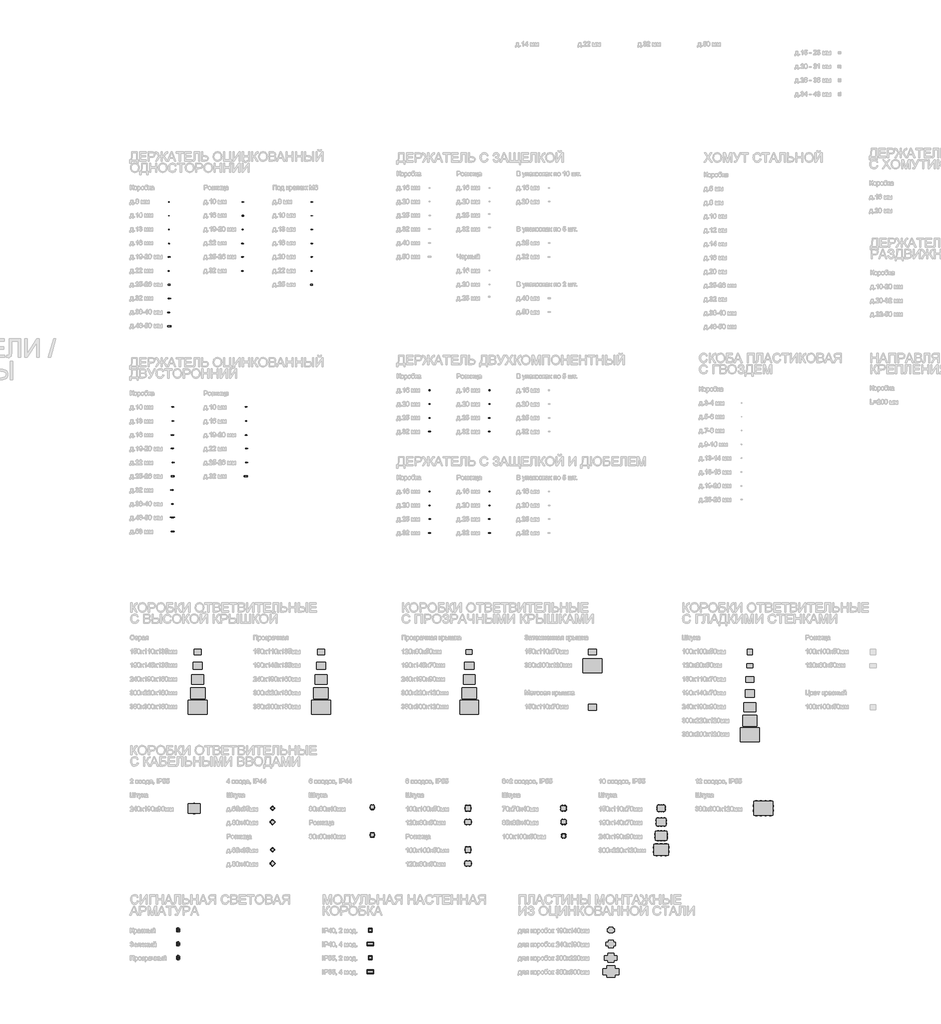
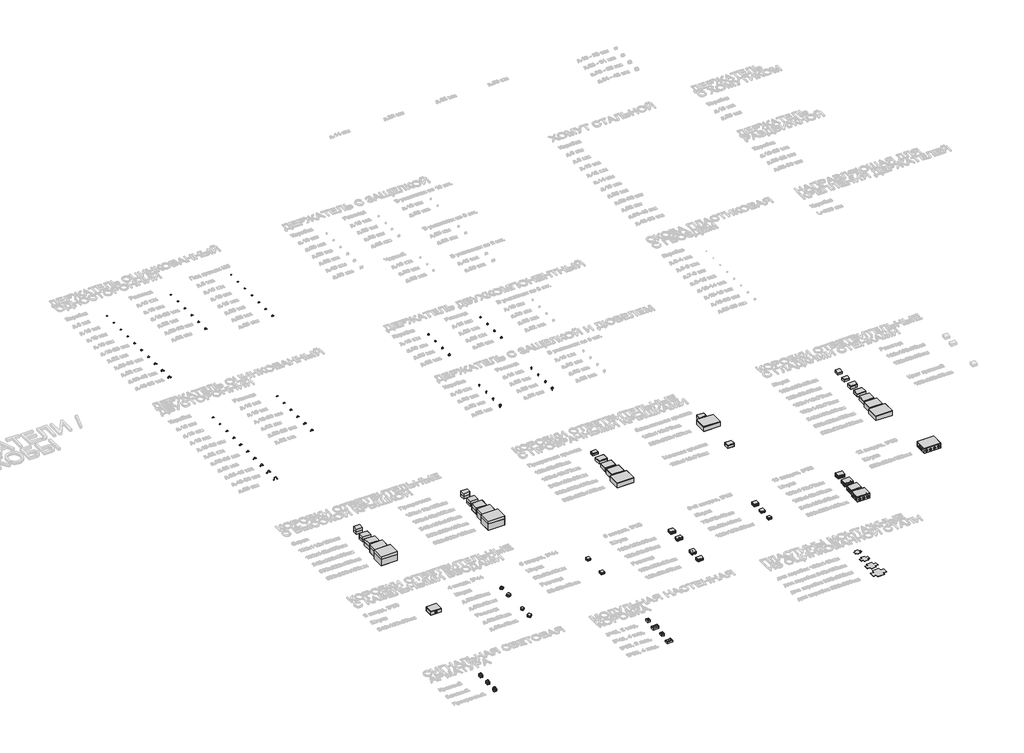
# One storey, part 1 of 98: 133 cable carrier fittings.
"""IFC4 building model written with IfcOpenShell, lengths in millimetres."""

from ifc_helpers import new_model, si_unit, origin, place, context, project, spatial, transform, mapped, element, save
from components import cable_carrier_fitting_fb84c19f, cable_carrier_fitting_7ec1cf44, cable_carrier_fitting_ea1286eb, cable_carrier_fitting_c44e37c7, cable_carrier_fitting_219328c9, cable_carrier_fitting_02279886, cable_carrier_fitting_015eeb92, cable_carrier_fitting_90186b1b, cable_carrier_fitting_2cc71f8e, cable_carrier_fitting_7289a710, cable_carrier_fitting_dbcab5cf, cable_carrier_fitting_85cb3a9a, cable_carrier_fitting_709250df, cable_carrier_fitting_ede0cdf9, cable_carrier_fitting_0c90fa16, cable_carrier_fitting_0106e0a8, cable_carrier_fitting_af9cb672, cable_carrier_fitting_868b71e6, cable_carrier_fitting_31fdd750, cable_carrier_fitting_eac3f454, cable_carrier_fitting_328e0a5f, cable_carrier_fitting_8bd09c2a, cable_carrier_fitting_1310a5ac, cable_carrier_fitting_f97c49a7, cable_carrier_fitting_1d412742, cable_carrier_fitting_4c093579, cable_carrier_fitting_d7937d52, cable_carrier_fitting_667f8432, cable_carrier_fitting_e7482c49, cable_carrier_fitting_fc76e14e, cable_carrier_fitting_ba0b64d6, cable_carrier_fitting_5ef4d5b9, cable_carrier_fitting_fce8d063, cable_carrier_fitting_f05b5040, cable_carrier_fitting_80cae445, cable_carrier_fitting_1495f8f4, cable_carrier_fitting_d68eb885, cable_carrier_fitting_ef6b51e8, cable_carrier_fitting_43ae8ca0, cable_carrier_fitting_7f8c6c91, cable_carrier_fitting_3680dad2, cable_carrier_fitting_05f6cc3a, cable_carrier_fitting_6735ebb1, cable_carrier_fitting_eed6df0a, cable_carrier_fitting_0eef3111, cable_carrier_fitting_70828152, cable_carrier_fitting_9cea8719, cable_carrier_fitting_77eaddde, cable_carrier_fitting_881643a7, cable_carrier_fitting_1314e60a, cable_carrier_fitting_8490ce1b, cable_carrier_fitting_2ab13ce0, cable_carrier_fitting_b24fd5af, cable_carrier_fitting_c96d8867, cable_carrier_fitting_ba293f6f, cable_carrier_fitting_9309c744, cable_carrier_fitting_1dd96824, cable_carrier_fitting_e5c09203, cable_carrier_fitting_5c50895f, cable_carrier_fitting_28132b05, cable_carrier_fitting_83356fa3, cable_carrier_fitting_1656734a, cable_carrier_fitting_9a70af75, cable_carrier_fitting_17f0b756, cable_carrier_fitting_1a81308a, cable_carrier_fitting_7af15bab, cable_carrier_fitting_7de9eb7b, cable_carrier_fitting_b689ec4e, cable_carrier_fitting_e0d42a9d, cable_carrier_fitting_1b3624fc, cable_carrier_fitting_2500d918

model = new_model("IFC4")

# Units and contexts
model_context = context("Model", 3, world=origin())
ifc_project = project(units=[si_unit("LENGTHUNIT", "METRE", prefix="MILLI")], contexts=[model_context])

# Site, building, storey
site = spatial("IfcSite", under=ifc_project)
building = spatial("IfcBuilding", under=site)
storey = spatial("IfcBuildingStorey", under=building, Name="Этаж 01", Elevation=0.0)

# Cable carrier fittings
placement = place(None, origin())
cable_carrier_fitting_shape = cable_carrier_fitting_fb84c19f(model_context)
element("IfcCableCarrierFitting", 1, ObjectType="КНС_ДержательОцинкованныйДвусторонний_DKC : д.10мм", at=placement, inside=storey, context=model_context, shape_type="MappedRepresentation", body=[
    mapped(cable_carrier_fitting_shape, transform((878.7004262, -36984.7060285, 0.0), x_axis=(1.0, 0.0, 0.0), y_axis=(0.0, 1.0, 0.0), z_axis=(0.0, 0.0, 1.0))),
])
cable_carrier_fitting_2_shape = cable_carrier_fitting_7ec1cf44(model_context)
element("IfcCableCarrierFitting", 2, ObjectType="КНС_ДержательОцинкованныйДвусторонний_DKC : д.32мм (розница)", at=placement, inside=storey, context=model_context, shape_type="MappedRepresentation", body=[
    mapped(cable_carrier_fitting_2_shape, transform((2478.7004262, -38484.7060285, 0.0), x_axis=(1.0, 0.0, 0.0), y_axis=(0.0, 1.0, 0.0), z_axis=(0.0, 0.0, 1.0))),
])
cable_carrier_fitting_3_shape = cable_carrier_fitting_ea1286eb(model_context)
element("IfcCableCarrierFitting", 3, ObjectType="КНС_ДержательОцинкованныйДвусторонний_DKC : д.25 - 26мм (розница)", at=placement, inside=storey, context=model_context, shape_type="MappedRepresentation", body=[
    mapped(cable_carrier_fitting_3_shape, transform((2478.7004262, -38184.7060285, 0.0), x_axis=(1.0, 0.0, 0.0), y_axis=(0.0, 1.0, 0.0), z_axis=(0.0, 0.0, 1.0))),
])
cable_carrier_fitting_4_shape = cable_carrier_fitting_c44e37c7(model_context)
element("IfcCableCarrierFitting", 4, ObjectType="КНС_ДержательОцинкованныйДвусторонний_DKC : д.22мм (розница)", at=placement, inside=storey, context=model_context, shape_type="MappedRepresentation", body=[
    mapped(cable_carrier_fitting_4_shape, transform((2478.7004262, -37884.7060285, 0.0), x_axis=(1.0, 0.0, 0.0), y_axis=(0.0, 1.0, 0.0), z_axis=(0.0, 0.0, 1.0))),
])
cable_carrier_fitting_5_shape = cable_carrier_fitting_219328c9(model_context)
element("IfcCableCarrierFitting", 5, ObjectType="КНС_ДержательОцинкованныйДвусторонний_DKC : д.19 - 20мм (розница)", at=placement, inside=storey, context=model_context, shape_type="MappedRepresentation", body=[
    mapped(cable_carrier_fitting_5_shape, transform((2478.7004262, -37584.7060285, 0.0), x_axis=(1.0, 0.0, 0.0), y_axis=(0.0, 1.0, 0.0), z_axis=(0.0, 0.0, 1.0))),
])
cable_carrier_fitting_6_shape = cable_carrier_fitting_02279886(model_context)
element("IfcCableCarrierFitting", 6, ObjectType="КНС_ДержательОцинкованныйДвусторонний_DKC : д.16мм (розница)", at=placement, inside=storey, context=model_context, shape_type="MappedRepresentation", body=[
    mapped(cable_carrier_fitting_6_shape, transform((2478.7004262, -37284.7060285, 0.0), x_axis=(1.0, 0.0, 0.0), y_axis=(0.0, 1.0, 0.0), z_axis=(0.0, 0.0, 1.0))),
])
element("IfcCableCarrierFitting", 7, ObjectType="КНС_ДержательОцинкованныйДвусторонний_DKC : д.10мм (розница)", at=placement, inside=storey, context=model_context, shape_type="MappedRepresentation", body=[
    mapped(cable_carrier_fitting_shape, transform((2478.7004262, -36984.7060285, 0.0), x_axis=(1.0, 0.0, 0.0), y_axis=(0.0, 1.0, 0.0), z_axis=(0.0, 0.0, 1.0))),
])
cable_carrier_fitting_7_shape = cable_carrier_fitting_015eeb92(model_context)
element("IfcCableCarrierFitting", 8, ObjectType="КНС_ДержательОцинкованныйДвусторонний_DKC : д.63мм", at=placement, inside=storey, context=model_context, shape_type="MappedRepresentation", body=[
    mapped(cable_carrier_fitting_7_shape, transform((878.7004262, -39684.7060285, 0.0), x_axis=(1.0, 0.0, 0.0), y_axis=(0.0, 1.0, 0.0), z_axis=(0.0, 0.0, 1.0))),
])
cable_carrier_fitting_8_shape = cable_carrier_fitting_90186b1b(model_context)
element("IfcCableCarrierFitting", 9, ObjectType="КНС_ДержательОцинкованныйДвусторонний_DKC : д.48 - 50мм", at=placement, inside=storey, context=model_context, shape_type="MappedRepresentation", body=[
    mapped(cable_carrier_fitting_8_shape, transform((878.7004262, -39384.7060285, 0.0), x_axis=(1.0, 0.0, 0.0), y_axis=(0.0, 1.0, 0.0), z_axis=(0.0, 0.0, 1.0))),
])
cable_carrier_fitting_9_shape = cable_carrier_fitting_2cc71f8e(model_context)
element("IfcCableCarrierFitting", 10, ObjectType="КНС_ДержательОцинкованныйДвусторонний_DKC : д.38 - 40мм", at=placement, inside=storey, context=model_context, shape_type="MappedRepresentation", body=[
    mapped(cable_carrier_fitting_9_shape, transform((878.7004262, -39084.7060285, 0.0), x_axis=(1.0, 0.0, 0.0), y_axis=(0.0, 1.0, 0.0), z_axis=(0.0, 0.0, 1.0))),
])
element("IfcCableCarrierFitting", 11, ObjectType="КНС_ДержательОцинкованныйДвусторонний_DKC : д.32мм", at=placement, inside=storey, context=model_context, shape_type="MappedRepresentation", body=[
    mapped(cable_carrier_fitting_2_shape, transform((878.7004262, -38784.7060285, 0.0), x_axis=(1.0, 0.0, 0.0), y_axis=(0.0, 1.0, 0.0), z_axis=(0.0, 0.0, 1.0))),
])
element("IfcCableCarrierFitting", 12, ObjectType="КНС_ДержательОцинкованныйДвусторонний_DKC : д.25 - 26 мм", at=placement, inside=storey, context=model_context, shape_type="MappedRepresentation", body=[
    mapped(cable_carrier_fitting_3_shape, transform((878.7004262, -38484.7060285, 0.0), x_axis=(1.0, 0.0, 0.0), y_axis=(0.0, 1.0, 0.0), z_axis=(0.0, 0.0, 1.0))),
])
element("IfcCableCarrierFitting", 13, ObjectType="КНС_ДержательОцинкованныйДвусторонний_DKC : д.22мм", at=placement, inside=storey, context=model_context, shape_type="MappedRepresentation", body=[
    mapped(cable_carrier_fitting_4_shape, transform((878.7004262, -38184.7060285, 0.0), x_axis=(1.0, 0.0, 0.0), y_axis=(0.0, 1.0, 0.0), z_axis=(0.0, 0.0, 1.0))),
])
element("IfcCableCarrierFitting", 14, ObjectType="КНС_ДержательОцинкованныйДвусторонний_DKC : д.19 - 20мм", at=placement, inside=storey, context=model_context, shape_type="MappedRepresentation", body=[
    mapped(cable_carrier_fitting_5_shape, transform((878.7004262, -37884.7060285, 0.0), x_axis=(1.0, 0.0, 0.0), y_axis=(0.0, 1.0, 0.0), z_axis=(0.0, 0.0, 1.0))),
])
element("IfcCableCarrierFitting", 15, ObjectType="КНС_ДержательОцинкованныйДвусторонний_DKC : д.16мм", at=placement, inside=storey, context=model_context, shape_type="MappedRepresentation", body=[
    mapped(cable_carrier_fitting_6_shape, transform((878.7004262, -37584.7060285, 0.0), x_axis=(1.0, 0.0, 0.0), y_axis=(0.0, 1.0, 0.0), z_axis=(0.0, 0.0, 1.0))),
])
cable_carrier_fitting_10_shape = cable_carrier_fitting_7289a710(model_context)
element("IfcCableCarrierFitting", 16, ObjectType="КНС_ДержательОцинкованныйДвусторонний_DKC : д.13мм", at=placement, inside=storey, context=model_context, shape_type="MappedRepresentation", body=[
    mapped(cable_carrier_fitting_10_shape, transform((878.7004262, -37284.7060285, 0.0), x_axis=(1.0, 0.0, 0.0), y_axis=(0.0, 1.0, 0.0), z_axis=(0.0, 0.0, 1.0))),
])
cable_carrier_fitting_11_shape = cable_carrier_fitting_dbcab5cf(model_context)
element("IfcCableCarrierFitting", 17, ObjectType="КНС_ДержательОцинкованныйОдносторонний_DKC : д.10мм", at=placement, inside=storey, context=model_context, shape_type="MappedRepresentation", body=[
    mapped(cable_carrier_fitting_11_shape, transform((799.2967341, -32823.8056912, 0.0), x_axis=(1.0, 0.0, 0.0), y_axis=(0.0, 1.0, 0.0), z_axis=(0.0, 0.0, 1.0))),
])
cable_carrier_fitting_12_shape = cable_carrier_fitting_85cb3a9a(model_context)
element("IfcCableCarrierFitting", 18, ObjectType="КНС_ДержательОцинкованныйОдносторонний_DKC : д.25мм под крепеж М6", at=placement, inside=storey, context=model_context, shape_type="MappedRepresentation", body=[
    mapped(cable_carrier_fitting_12_shape, transform((3899.2967341, -34323.8056912, 0.0), x_axis=(1.0, 0.0, 0.0), y_axis=(0.0, 1.0, 0.0), z_axis=(0.0, 0.0, 1.0))),
])
cable_carrier_fitting_13_shape = cable_carrier_fitting_709250df(model_context)
element("IfcCableCarrierFitting", 19, ObjectType="КНС_ДержательОцинкованныйОдносторонний_DKC : д.22мм под крепеж М6", at=placement, inside=storey, context=model_context, shape_type="MappedRepresentation", body=[
    mapped(cable_carrier_fitting_13_shape, transform((3899.2967341, -34023.8056912, 0.0), x_axis=(1.0, 0.0, 0.0), y_axis=(0.0, 1.0, 0.0), z_axis=(0.0, 0.0, 1.0))),
])
cable_carrier_fitting_14_shape = cable_carrier_fitting_ede0cdf9(model_context)
element("IfcCableCarrierFitting", 20, ObjectType="КНС_ДержательОцинкованныйОдносторонний_DKC : д.20мм под крепеж М6", at=placement, inside=storey, context=model_context, shape_type="MappedRepresentation", body=[
    mapped(cable_carrier_fitting_14_shape, transform((3899.2967341, -33723.8056912, 0.0), x_axis=(1.0, 0.0, 0.0), y_axis=(0.0, 1.0, 0.0), z_axis=(0.0, 0.0, 1.0))),
])
cable_carrier_fitting_15_shape = cable_carrier_fitting_0c90fa16(model_context)
element("IfcCableCarrierFitting", 21, ObjectType="КНС_ДержательОцинкованныйОдносторонний_DKC : д.16мм под крепеж М6", at=placement, inside=storey, context=model_context, shape_type="MappedRepresentation", body=[
    mapped(cable_carrier_fitting_15_shape, transform((3899.2967341, -33423.8056912, 0.0), x_axis=(1.0, 0.0, 0.0), y_axis=(0.0, 1.0, 0.0), z_axis=(0.0, 0.0, 1.0))),
])
cable_carrier_fitting_16_shape = cable_carrier_fitting_0106e0a8(model_context)
element("IfcCableCarrierFitting", 22, ObjectType="КНС_ДержательОцинкованныйОдносторонний_DKC : д.13мм под крепеж М6", at=placement, inside=storey, context=model_context, shape_type="MappedRepresentation", body=[
    mapped(cable_carrier_fitting_16_shape, transform((3899.2967341, -33123.8056912, 0.0), x_axis=(1.0, 0.0, 0.0), y_axis=(0.0, 1.0, 0.0), z_axis=(0.0, 0.0, 1.0))),
])
element("IfcCableCarrierFitting", 23, ObjectType="КНС_ДержательОцинкованныйОдносторонний_DKC : д.10мм под крепеж М6", at=placement, inside=storey, context=model_context, shape_type="MappedRepresentation", body=[
    mapped(cable_carrier_fitting_11_shape, transform((3899.2967341, -32823.8056912, 0.0), x_axis=(1.0, 0.0, 0.0), y_axis=(0.0, 1.0, 0.0), z_axis=(0.0, 0.0, 1.0))),
])
cable_carrier_fitting_17_shape = cable_carrier_fitting_af9cb672(model_context)
element("IfcCableCarrierFitting", 24, ObjectType="КНС_ДержательОцинкованныйОдносторонний_DKC : д.8мм под крепеж М6", at=placement, inside=storey, context=model_context, shape_type="MappedRepresentation", body=[
    mapped(cable_carrier_fitting_17_shape, transform((3899.2967341, -32523.8056912, 0.0), x_axis=(1.0, 0.0, 0.0), y_axis=(0.0, 1.0, 0.0), z_axis=(0.0, 0.0, 1.0))),
])
cable_carrier_fitting_18_shape = cable_carrier_fitting_868b71e6(model_context)
element("IfcCableCarrierFitting", 25, ObjectType="КНС_ДержательОцинкованныйОдносторонний_DKC : д.32мм (розница)", at=placement, inside=storey, context=model_context, shape_type="MappedRepresentation", body=[
    mapped(cable_carrier_fitting_18_shape, transform((2399.2967341, -34023.8056912, 0.0), x_axis=(1.0, 0.0, 0.0), y_axis=(0.0, 1.0, 0.0), z_axis=(0.0, 0.0, 1.0))),
])
element("IfcCableCarrierFitting", 26, ObjectType="КНС_ДержательОцинкованныйОдносторонний_DKC : д.25 - 26мм (розница)", at=placement, inside=storey, context=model_context, shape_type="MappedRepresentation", body=[
    mapped(cable_carrier_fitting_12_shape, transform((2399.2967341, -33723.8056912, 0.0), x_axis=(1.0, 0.0, 0.0), y_axis=(0.0, 1.0, 0.0), z_axis=(0.0, 0.0, 1.0))),
])
element("IfcCableCarrierFitting", 27, ObjectType="КНС_ДержательОцинкованныйОдносторонний_DKC : д.22мм (розница)", at=placement, inside=storey, context=model_context, shape_type="MappedRepresentation", body=[
    mapped(cable_carrier_fitting_13_shape, transform((2399.2967341, -33423.8056912, 0.0), x_axis=(1.0, 0.0, 0.0), y_axis=(0.0, 1.0, 0.0), z_axis=(0.0, 0.0, 1.0))),
])
element("IfcCableCarrierFitting", 28, ObjectType="КНС_ДержательОцинкованныйОдносторонний_DKC : д.19 - 20мм (розница)", at=placement, inside=storey, context=model_context, shape_type="MappedRepresentation", body=[
    mapped(cable_carrier_fitting_14_shape, transform((2399.2967341, -33123.8056912, 0.0), x_axis=(1.0, 0.0, 0.0), y_axis=(0.0, 1.0, 0.0), z_axis=(0.0, 0.0, 1.0))),
])
element("IfcCableCarrierFitting", 29, ObjectType="КНС_ДержательОцинкованныйОдносторонний_DKC : д.16мм (розница)", at=placement, inside=storey, context=model_context, shape_type="MappedRepresentation", body=[
    mapped(cable_carrier_fitting_15_shape, transform((2399.2967341, -32823.8056912, 0.0), x_axis=(1.0, 0.0, 0.0), y_axis=(0.0, 1.0, 0.0), z_axis=(0.0, 0.0, 1.0))),
])
element("IfcCableCarrierFitting", 30, ObjectType="КНС_ДержательОцинкованныйОдносторонний_DKC : д.10мм (розница)", at=placement, inside=storey, context=model_context, shape_type="MappedRepresentation", body=[
    mapped(cable_carrier_fitting_11_shape, transform((2399.2967341, -32523.8056912, 0.0), x_axis=(1.0, 0.0, 0.0), y_axis=(0.0, 1.0, 0.0), z_axis=(0.0, 0.0, 1.0))),
])
cable_carrier_fitting_19_shape = cable_carrier_fitting_31fdd750(model_context)
element("IfcCableCarrierFitting", 31, ObjectType="КНС_ДержательОцинкованныйОдносторонний_DKC : д.48 - 50мм", at=placement, inside=storey, context=model_context, shape_type="MappedRepresentation", body=[
    mapped(cable_carrier_fitting_19_shape, transform((799.2967341, -35223.8056912, 0.0), x_axis=(1.0, 0.0, 0.0), y_axis=(0.0, 1.0, 0.0), z_axis=(0.0, 0.0, 1.0))),
])
cable_carrier_fitting_20_shape = cable_carrier_fitting_eac3f454(model_context)
element("IfcCableCarrierFitting", 32, ObjectType="КНС_ДержательОцинкованныйОдносторонний_DKC : д.38 - 40мм", at=placement, inside=storey, context=model_context, shape_type="MappedRepresentation", body=[
    mapped(cable_carrier_fitting_20_shape, transform((799.2967341, -34923.8056912, 0.0), x_axis=(1.0, 0.0, 0.0), y_axis=(0.0, 1.0, 0.0), z_axis=(0.0, 0.0, 1.0))),
])
element("IfcCableCarrierFitting", 33, ObjectType="КНС_ДержательОцинкованныйОдносторонний_DKC : д.32мм", at=placement, inside=storey, context=model_context, shape_type="MappedRepresentation", body=[
    mapped(cable_carrier_fitting_18_shape, transform((799.2967341, -34623.8056912, 0.0), x_axis=(1.0, 0.0, 0.0), y_axis=(0.0, 1.0, 0.0), z_axis=(0.0, 0.0, 1.0))),
])
element("IfcCableCarrierFitting", 34, ObjectType="КНС_ДержательОцинкованныйОдносторонний_DKC : д.25 - 26мм", at=placement, inside=storey, context=model_context, shape_type="MappedRepresentation", body=[
    mapped(cable_carrier_fitting_12_shape, transform((799.2967341, -34323.8056912, 0.0), x_axis=(1.0, 0.0, 0.0), y_axis=(0.0, 1.0, 0.0), z_axis=(0.0, 0.0, 1.0))),
])
element("IfcCableCarrierFitting", 35, ObjectType="КНС_ДержательОцинкованныйОдносторонний_DKC : д.22мм", at=placement, inside=storey, context=model_context, shape_type="MappedRepresentation", body=[
    mapped(cable_carrier_fitting_13_shape, transform((799.2967341, -34023.8056912, 0.0), x_axis=(1.0, 0.0, 0.0), y_axis=(0.0, 1.0, 0.0), z_axis=(0.0, 0.0, 1.0))),
])
element("IfcCableCarrierFitting", 36, ObjectType="КНС_ДержательОцинкованныйОдносторонний_DKC : д.19 - 20мм", at=placement, inside=storey, context=model_context, shape_type="MappedRepresentation", body=[
    mapped(cable_carrier_fitting_14_shape, transform((799.2967341, -33723.8056912, 0.0), x_axis=(1.0, 0.0, 0.0), y_axis=(0.0, 1.0, 0.0), z_axis=(0.0, 0.0, 1.0))),
])
element("IfcCableCarrierFitting", 37, ObjectType="КНС_ДержательОцинкованныйОдносторонний_DKC : д.16мм", at=placement, inside=storey, context=model_context, shape_type="MappedRepresentation", body=[
    mapped(cable_carrier_fitting_15_shape, transform((799.2967341, -33423.8056912, 0.0), x_axis=(1.0, 0.0, 0.0), y_axis=(0.0, 1.0, 0.0), z_axis=(0.0, 0.0, 1.0))),
])
element("IfcCableCarrierFitting", 38, ObjectType="КНС_ДержательОцинкованныйОдносторонний_DKC : д.13мм", at=placement, inside=storey, context=model_context, shape_type="MappedRepresentation", body=[
    mapped(cable_carrier_fitting_16_shape, transform((799.2967341, -33123.8056912, 0.0), x_axis=(1.0, 0.0, 0.0), y_axis=(0.0, 1.0, 0.0), z_axis=(0.0, 0.0, 1.0))),
])
element("IfcCableCarrierFitting", 39, ObjectType="КНС_ДержательОцинкованныйОдносторонний_DKC : д.8мм", at=placement, inside=storey, context=model_context, shape_type="MappedRepresentation", body=[
    mapped(cable_carrier_fitting_17_shape, transform((799.2967341, -32523.8056912, 0.0), x_axis=(1.0, 0.0, 0.0), y_axis=(0.0, 1.0, 0.0), z_axis=(0.0, 0.0, 1.0))),
])
cable_carrier_fitting_21_shape = cable_carrier_fitting_328e0a5f(model_context)
element("IfcCableCarrierFitting", 40, ObjectType="КНС_ДержательДвухкомпонентный_DKC : д.32мм (розница)", at=placement, inside=storey, context=model_context, shape_type="MappedRepresentation", body=[
    mapped(cable_carrier_fitting_21_shape, transform((7768.9220832, -37516.3856383, 0.0), x_axis=(1.0, 0.0, 0.0), y_axis=(0.0, 1.0, 0.0), z_axis=(0.0, 0.0, 1.0))),
])
cable_carrier_fitting_22_shape = cable_carrier_fitting_8bd09c2a(model_context)
element("IfcCableCarrierFitting", 41, ObjectType="КНС_ДержательДвухкомпонентный_DKC : д.25мм (розница)", at=placement, inside=storey, context=model_context, shape_type="MappedRepresentation", body=[
    mapped(cable_carrier_fitting_22_shape, transform((7768.9220832, -37216.3856383, 0.0), x_axis=(1.0, 0.0, 0.0), y_axis=(0.0, 1.0, 0.0), z_axis=(0.0, 0.0, 1.0))),
])
cable_carrier_fitting_23_shape = cable_carrier_fitting_1310a5ac(model_context)
element("IfcCableCarrierFitting", 42, ObjectType="КНС_ДержательДвухкомпонентный_DKC : д.20мм (розница)", at=placement, inside=storey, context=model_context, shape_type="MappedRepresentation", body=[
    mapped(cable_carrier_fitting_23_shape, transform((7768.9220832, -36916.3856383, 0.0), x_axis=(1.0, 0.0, 0.0), y_axis=(0.0, 1.0, 0.0), z_axis=(0.0, 0.0, 1.0))),
])
cable_carrier_fitting_24_shape = cable_carrier_fitting_f97c49a7(model_context)
element("IfcCableCarrierFitting", 43, ObjectType="КНС_ДержательДвухкомпонентный_DKC : д.16мм (розница)", at=placement, inside=storey, context=model_context, shape_type="MappedRepresentation", body=[
    mapped(cable_carrier_fitting_24_shape, transform((7768.9220832, -36616.3856383, 0.0), x_axis=(1.0, 0.0, 0.0), y_axis=(0.0, 1.0, 0.0), z_axis=(0.0, 0.0, 1.0))),
])
element("IfcCableCarrierFitting", 44, ObjectType="КНС_ДержательДвухкомпонентный_DKC : д.32мм", at=placement, inside=storey, context=model_context, shape_type="MappedRepresentation", body=[
    mapped(cable_carrier_fitting_21_shape, transform((6468.9220832, -37516.3856383, 0.0), x_axis=(1.0, 0.0, 0.0), y_axis=(0.0, 1.0, 0.0), z_axis=(0.0, 0.0, 1.0))),
])
element("IfcCableCarrierFitting", 45, ObjectType="КНС_ДержательДвухкомпонентный_DKC : д.25мм", at=placement, inside=storey, context=model_context, shape_type="MappedRepresentation", body=[
    mapped(cable_carrier_fitting_22_shape, transform((6468.9220832, -37216.3856383, 0.0), x_axis=(1.0, 0.0, 0.0), y_axis=(0.0, 1.0, 0.0), z_axis=(0.0, 0.0, 1.0))),
])
element("IfcCableCarrierFitting", 46, ObjectType="КНС_ДержательДвухкомпонентный_DKC : д.20мм", at=placement, inside=storey, context=model_context, shape_type="MappedRepresentation", body=[
    mapped(cable_carrier_fitting_23_shape, transform((6468.9220832, -36916.3856383, 0.0), x_axis=(1.0, 0.0, 0.0), y_axis=(0.0, 1.0, 0.0), z_axis=(0.0, 0.0, 1.0))),
])
element("IfcCableCarrierFitting", 47, ObjectType="КНС_ДержательДвухкомпонентный_DKC : д.16мм", at=placement, inside=storey, context=model_context, shape_type="MappedRepresentation", body=[
    mapped(cable_carrier_fitting_24_shape, transform((6468.9220832, -36616.3856383, 0.0), x_axis=(1.0, 0.0, 0.0), y_axis=(0.0, 1.0, 0.0), z_axis=(0.0, 0.0, 1.0))),
])
cable_carrier_fitting_25_shape = cable_carrier_fitting_1d412742(model_context)
element("IfcCableCarrierFitting", 48, ObjectType="КНС_ДержательСЗащелкойИДюбелем_DKC : д.32мм (розница)", at=placement, inside=storey, context=model_context, shape_type="MappedRepresentation", body=[
    mapped(cable_carrier_fitting_25_shape, transform((7768.9220832, -39716.3856383, 0.0), x_axis=(1.0, 0.0, 0.0), y_axis=(0.0, 1.0, 0.0), z_axis=(0.0, 0.0, 1.0))),
])
cable_carrier_fitting_26_shape = cable_carrier_fitting_4c093579(model_context)
element("IfcCableCarrierFitting", 49, ObjectType="КНС_ДержательСЗащелкойИДюбелем_DKC : д.25мм (розница)", at=placement, inside=storey, context=model_context, shape_type="MappedRepresentation", body=[
    mapped(cable_carrier_fitting_26_shape, transform((7768.9220832, -39416.3856383, 0.0), x_axis=(1.0, 0.0, 0.0), y_axis=(0.0, 1.0, 0.0), z_axis=(0.0, 0.0, 1.0))),
])
cable_carrier_fitting_27_shape = cable_carrier_fitting_d7937d52(model_context)
element("IfcCableCarrierFitting", 50, ObjectType="КНС_ДержательСЗащелкойИДюбелем_DKC : д.20мм (розница)", at=placement, inside=storey, context=model_context, shape_type="MappedRepresentation", body=[
    mapped(cable_carrier_fitting_27_shape, transform((7768.9220832, -39116.3856383, 0.0), x_axis=(1.0, 0.0, 0.0), y_axis=(0.0, 1.0, 0.0), z_axis=(0.0, 0.0, 1.0))),
])
cable_carrier_fitting_28_shape = cable_carrier_fitting_667f8432(model_context)
element("IfcCableCarrierFitting", 51, ObjectType="КНС_ДержательСЗащелкойИДюбелем_DKC : д.16мм (розница)", at=placement, inside=storey, context=model_context, shape_type="MappedRepresentation", body=[
    mapped(cable_carrier_fitting_28_shape, transform((7768.9220832, -38816.3856383, 0.0), x_axis=(1.0, 0.0, 0.0), y_axis=(0.0, 1.0, 0.0), z_axis=(0.0, 0.0, 1.0))),
])
element("IfcCableCarrierFitting", 52, ObjectType="КНС_ДержательСЗащелкойИДюбелем_DKC : д.32мм", at=placement, inside=storey, context=model_context, shape_type="MappedRepresentation", body=[
    mapped(cable_carrier_fitting_25_shape, transform((6468.9220832, -39716.3856383, 0.0), x_axis=(1.0, 0.0, 0.0), y_axis=(0.0, 1.0, 0.0), z_axis=(0.0, 0.0, 1.0))),
])
element("IfcCableCarrierFitting", 53, ObjectType="КНС_ДержательСЗащелкойИДюбелем_DKC : д.25мм", at=placement, inside=storey, context=model_context, shape_type="MappedRepresentation", body=[
    mapped(cable_carrier_fitting_26_shape, transform((6468.9220832, -39416.3856383, 0.0), x_axis=(1.0, 0.0, 0.0), y_axis=(0.0, 1.0, 0.0), z_axis=(0.0, 0.0, 1.0))),
])
element("IfcCableCarrierFitting", 54, ObjectType="КНС_ДержательСЗащелкойИДюбелем_DKC : д.20мм", at=placement, inside=storey, context=model_context, shape_type="MappedRepresentation", body=[
    mapped(cable_carrier_fitting_27_shape, transform((6468.9220832, -39116.3856383, 0.0), x_axis=(1.0, 0.0, 0.0), y_axis=(0.0, 1.0, 0.0), z_axis=(0.0, 0.0, 1.0))),
])
element("IfcCableCarrierFitting", 55, ObjectType="КНС_ДержательСЗащелкойИДюбелем_DKC : д.16мм", at=placement, inside=storey, context=model_context, shape_type="MappedRepresentation", body=[
    mapped(cable_carrier_fitting_28_shape, transform((6468.9220832, -38816.3856383, 0.0), x_axis=(1.0, 0.0, 0.0), y_axis=(0.0, 1.0, 0.0), z_axis=(0.0, 0.0, 1.0))),
])
cable_carrier_fitting_29_shape = cable_carrier_fitting_e7482c49(model_context)
element("IfcCableCarrierFitting", 56, ObjectType="КНС_СигнальнаяСветоваяАрматура_DKC : Красный", at=placement, inside=storey, context=model_context, shape_type="MappedRepresentation", body=[
    mapped(cable_carrier_fitting_29_shape, transform((998.7004262, -48348.7663946, 0.0), x_axis=(1.0, 0.0, 0.0), y_axis=(0.0, 1.0, 0.0), z_axis=(0.0, 0.0, 1.0))),
])
element("IfcCableCarrierFitting", 57, ObjectType="КНС_СигнальнаяСветоваяАрматура_DKC : Зеленый", at=placement, inside=storey, context=model_context, shape_type="MappedRepresentation", body=[
    mapped(cable_carrier_fitting_29_shape, transform((998.7004262, -48648.7663946, 0.0), x_axis=(1.0, 0.0, 0.0), y_axis=(0.0, 1.0, 0.0), z_axis=(0.0, 0.0, 1.0))),
])
element("IfcCableCarrierFitting", 58, ObjectType="КНС_СигнальнаяСветоваяАрматура_DKC : Прозрачный", at=placement, inside=storey, context=model_context, shape_type="MappedRepresentation", body=[
    mapped(cable_carrier_fitting_29_shape, transform((998.7004262, -48948.7663946, 0.0), x_axis=(1.0, 0.0, 0.0), y_axis=(0.0, 1.0, 0.0), z_axis=(0.0, 0.0, 1.0))),
])
cable_carrier_fitting_30_shape = cable_carrier_fitting_fc76e14e(model_context)
element("IfcCableCarrierFitting", 59, ObjectType="КНС_МодульнаяНастеннаяКоробка_DKC : IP40, 2мод.", at=placement, inside=storey, context=model_context, shape_type="MappedRepresentation", body=[
    mapped(cable_carrier_fitting_30_shape, transform((5178.7973007, -48348.7663946, 0.0), x_axis=(1.0, 0.0, 0.0), y_axis=(0.0, 1.0, 0.0), z_axis=(0.0, 0.0, 1.0))),
])
cable_carrier_fitting_31_shape = cable_carrier_fitting_ba0b64d6(model_context)
element("IfcCableCarrierFitting", 60, ObjectType="КНС_МодульнаяНастеннаяКоробка_DKC : IP40, 4мод.", at=placement, inside=storey, context=model_context, shape_type="MappedRepresentation", body=[
    mapped(cable_carrier_fitting_31_shape, transform((5178.7973007, -48648.7663946, 0.0), x_axis=(1.0, 0.0, 0.0), y_axis=(0.0, 1.0, 0.0), z_axis=(0.0, 0.0, 1.0))),
])
cable_carrier_fitting_32_shape = cable_carrier_fitting_5ef4d5b9(model_context)
element("IfcCableCarrierFitting", 61, ObjectType="КНС_МодульнаяНастеннаяКоробка_DKC : IP55, 2мод.", at=placement, inside=storey, context=model_context, shape_type="MappedRepresentation", body=[
    mapped(cable_carrier_fitting_32_shape, transform((5178.7973007, -48948.7663946, 0.0), x_axis=(1.0, 0.0, 0.0), y_axis=(0.0, 1.0, 0.0), z_axis=(0.0, 0.0, 1.0))),
])
cable_carrier_fitting_33_shape = cable_carrier_fitting_fce8d063(model_context)
element("IfcCableCarrierFitting", 62, ObjectType="КНС_МодульнаяНастеннаяКоробка_DKC : IP55, 4мод.", at=placement, inside=storey, context=model_context, shape_type="MappedRepresentation", body=[
    mapped(cable_carrier_fitting_33_shape, transform((5178.7973007, -49248.7663946, 0.0), x_axis=(1.0, 0.0, 0.0), y_axis=(0.0, 1.0, 0.0), z_axis=(0.0, 0.0, 1.0))),
])
cable_carrier_fitting_34_shape = cable_carrier_fitting_f05b5040(model_context)
element("IfcCableCarrierFitting", 63, ObjectType="КНС_ПластинаМонтажная_DKC : для коробок 190х140мм", at=placement, inside=storey, context=model_context, shape_type="MappedRepresentation", body=[
    mapped(cable_carrier_fitting_34_shape, transform((10410.6001226, -48348.7663946, 0.0), x_axis=(1.0, 0.0, 0.0), y_axis=(0.0, 1.0, 0.0), z_axis=(0.0, 0.0, 1.0))),
])
element("IfcCableCarrierFitting", 64, ObjectType="КНС_ПластинаМонтажная_DKC : для коробок 190х140мм", at=placement, inside=storey, context=model_context, shape_type="MappedRepresentation", body=[
    mapped(cable_carrier_fitting_34_shape, transform((7329.3555038, -42602.5373486, 34.0), x_axis=(1.0, 0.0, 0.0), y_axis=(0.0, 1.0, 0.0), z_axis=(0.0, 0.0, 1.0))),
])
element("IfcCableCarrierFitting", 65, ObjectType="КНС_ПластинаМонтажная_DKC : для коробок 190х140мм", at=placement, inside=storey, context=model_context, shape_type="MappedRepresentation", body=[
    mapped(cable_carrier_fitting_34_shape, transform((4107.6089985, -42602.5373486, 32.0), x_axis=(1.0, 0.0, 0.0), y_axis=(0.0, 1.0, 0.0), z_axis=(0.0, 0.0, 1.0))),
])
element("IfcCableCarrierFitting", 66, ObjectType="КНС_ПластинаМонтажная_DKC : для коробок 190х140мм", at=placement, inside=storey, context=model_context, shape_type="MappedRepresentation", body=[
    mapped(cable_carrier_fitting_34_shape, transform((1427.6089985, -42602.5373486, 32.0), x_axis=(1.0, 0.0, 0.0), y_axis=(0.0, 1.0, 0.0), z_axis=(0.0, 0.0, 1.0))),
])
element("IfcCableCarrierFitting", 67, ObjectType="КНС_ПластинаМонтажная_DKC : для коробок 190х140мм", at=placement, inside=storey, context=model_context, shape_type="MappedRepresentation", body=[
    mapped(cable_carrier_fitting_34_shape, transform((11504.1716993, -45999.5121665, 34.0), x_axis=(1.0, 0.0, 0.0), y_axis=(0.0, 1.0, 0.0), z_axis=(0.0, 0.0, 1.0))),
])
element("IfcCableCarrierFitting", 68, ObjectType="КНС_ПластинаМонтажная_DKC : для коробок 190х140мм", at=placement, inside=storey, context=model_context, shape_type="MappedRepresentation", body=[
    mapped(cable_carrier_fitting_34_shape, transform((13431.1020091, -43202.5373486, 34.0), x_axis=(1.0, 0.0, 0.0), y_axis=(0.0, 1.0, 0.0), z_axis=(0.0, 0.0, 1.0))),
])
element("IfcCableCarrierFitting", 69, ObjectType="КНС_ПластинаМонтажная_DKC : для коробок 190х140мм", at=placement, inside=storey, context=model_context, shape_type="MappedRepresentation", body=[
    mapped(cable_carrier_fitting_34_shape, transform((13431.1020091, -42902.5373486, 34.0), x_axis=(1.0, 0.0, 0.0), y_axis=(0.0, 1.0, 0.0), z_axis=(0.0, 0.0, 1.0))),
])
cable_carrier_fitting_35_shape = cable_carrier_fitting_80cae445(model_context)
element("IfcCableCarrierFitting", 70, ObjectType="КНС_ПластинаМонтажная_DKC : для коробок 240х190мм", at=placement, inside=storey, context=model_context, shape_type="MappedRepresentation", body=[
    mapped(cable_carrier_fitting_35_shape, transform((10410.6001226, -48648.7663946, 0.0), x_axis=(1.0, 0.0, 0.0), y_axis=(0.0, 1.0, 0.0), z_axis=(0.0, 0.0, 1.0))),
])
element("IfcCableCarrierFitting", 71, ObjectType="КНС_ПластинаМонтажная_DKC : для коробок 240х190мм", at=placement, inside=storey, context=model_context, shape_type="MappedRepresentation", body=[
    mapped(cable_carrier_fitting_35_shape, transform((1350.87646, -45705.4861313, 43.0), x_axis=(1.0, 0.0, 0.0), y_axis=(0.0, 1.0, 0.0), z_axis=(0.0, 0.0, 1.0))),
])
element("IfcCableCarrierFitting", 72, ObjectType="КНС_ПластинаМонтажная_DKC : для коробок 240х190мм", at=placement, inside=storey, context=model_context, shape_type="MappedRepresentation", body=[
    mapped(cable_carrier_fitting_35_shape, transform((7329.3555038, -42902.5373486, 43.0), x_axis=(1.0, 0.0, 0.0), y_axis=(0.0, 1.0, 0.0), z_axis=(0.0, 0.0, 1.0))),
])
element("IfcCableCarrierFitting", 73, ObjectType="КНС_ПластинаМонтажная_DKC : для коробок 240х190мм", at=placement, inside=storey, context=model_context, shape_type="MappedRepresentation", body=[
    mapped(cable_carrier_fitting_35_shape, transform((4107.6089985, -42902.5373486, 46.0), x_axis=(1.0, 0.0, 0.0), y_axis=(0.0, 1.0, 0.0), z_axis=(0.0, 0.0, 1.0))),
])
element("IfcCableCarrierFitting", 74, ObjectType="КНС_ПластинаМонтажная_DKC : для коробок 240х190мм", at=placement, inside=storey, context=model_context, shape_type="MappedRepresentation", body=[
    mapped(cable_carrier_fitting_35_shape, transform((13431.1020091, -43502.5373486, 43.0), x_axis=(1.0, 0.0, 0.0), y_axis=(0.0, 1.0, 0.0), z_axis=(0.0, 0.0, 1.0))),
])
element("IfcCableCarrierFitting", 75, ObjectType="КНС_ПластинаМонтажная_DKC : для коробок 240х190мм", at=placement, inside=storey, context=model_context, shape_type="MappedRepresentation", body=[
    mapped(cable_carrier_fitting_35_shape, transform((1427.6089985, -42902.5373486, 46.0), x_axis=(1.0, 0.0, 0.0), y_axis=(0.0, 1.0, 0.0), z_axis=(0.0, 0.0, 1.0))),
])
element("IfcCableCarrierFitting", 76, ObjectType="КНС_ПластинаМонтажная_DKC : для коробок 240х190мм", at=placement, inside=storey, context=model_context, shape_type="MappedRepresentation", body=[
    mapped(cable_carrier_fitting_35_shape, transform((11504.1716993, -46299.5121665, 43.0), x_axis=(1.0, 0.0, 0.0), y_axis=(0.0, 1.0, 0.0), z_axis=(0.0, 0.0, 1.0))),
])
cable_carrier_fitting_36_shape = cable_carrier_fitting_1495f8f4(model_context)
element("IfcCableCarrierFitting", 77, ObjectType="КНС_ПластинаМонтажная_DKC : для коробок 300х220мм", at=placement, inside=storey, context=model_context, shape_type="MappedRepresentation", body=[
    mapped(cable_carrier_fitting_36_shape, transform((10410.6001226, -48948.7663946, 0.0), x_axis=(1.0, 0.0, 0.0), y_axis=(0.0, 1.0, 0.0), z_axis=(0.0, 0.0, 1.0))),
])
element("IfcCableCarrierFitting", 78, ObjectType="КНС_ПластинаМонтажная_DKC : для коробок 300х220мм", at=placement, inside=storey, context=model_context, shape_type="MappedRepresentation", body=[
    mapped(cable_carrier_fitting_36_shape, transform((7329.3555038, -43202.5373486, 58.0), x_axis=(1.0, 0.0, 0.0), y_axis=(0.0, 1.0, 0.0), z_axis=(0.0, 0.0, 1.0))),
])
element("IfcCableCarrierFitting", 79, ObjectType="КНС_ПластинаМонтажная_DKC : для коробок 300х220мм", at=placement, inside=storey, context=model_context, shape_type="MappedRepresentation", body=[
    mapped(cable_carrier_fitting_36_shape, transform((4107.6089985, -43202.5373486, 67.5), x_axis=(1.0, 0.0, 0.0), y_axis=(0.0, 1.0, 0.0), z_axis=(0.0, 0.0, 1.0))),
])
element("IfcCableCarrierFitting", 80, ObjectType="КНС_ПластинаМонтажная_DKC : для коробок 300х220мм", at=placement, inside=storey, context=model_context, shape_type="MappedRepresentation", body=[
    mapped(cable_carrier_fitting_36_shape, transform((13431.1020091, -43802.5373486, 58.0), x_axis=(1.0, 0.0, 0.0), y_axis=(0.0, 1.0, 0.0), z_axis=(0.0, 0.0, 1.0))),
])
element("IfcCableCarrierFitting", 81, ObjectType="КНС_ПластинаМонтажная_DKC : для коробок 300х220мм", at=placement, inside=storey, context=model_context, shape_type="MappedRepresentation", body=[
    mapped(cable_carrier_fitting_36_shape, transform((1427.6089985, -43202.5373486, 67.5), x_axis=(1.0, 0.0, 0.0), y_axis=(0.0, 1.0, 0.0), z_axis=(0.0, 0.0, 1.0))),
])
element("IfcCableCarrierFitting", 82, ObjectType="КНС_ПластинаМонтажная_DKC : для коробок 300х220мм", at=placement, inside=storey, context=model_context, shape_type="MappedRepresentation", body=[
    mapped(cable_carrier_fitting_36_shape, transform((11504.1716993, -46599.5121665, 58.0), x_axis=(1.0, 0.0, 0.0), y_axis=(0.0, 1.0, 0.0), z_axis=(0.0, 0.0, 1.0))),
])
cable_carrier_fitting_37_shape = cable_carrier_fitting_d68eb885(model_context)
element("IfcCableCarrierFitting", 83, ObjectType="КНС_ПластинаМонтажная_DKC : для коробок 380х300мм", at=placement, inside=storey, context=model_context, shape_type="MappedRepresentation", body=[
    mapped(cable_carrier_fitting_37_shape, transform((10410.6001226, -49248.7663946, 0.0), x_axis=(1.0, 0.0, 0.0), y_axis=(0.0, 1.0, 0.0), z_axis=(0.0, 0.0, 1.0))),
])
element("IfcCableCarrierFitting", 84, ObjectType="КНС_ПластинаМонтажная_DKC : для коробок 380х300мм", at=placement, inside=storey, context=model_context, shape_type="MappedRepresentation", body=[
    mapped(cable_carrier_fitting_37_shape, transform((10009.3555038, -42602.5373486, 57.0), x_axis=(1.0, 0.0, 0.0), y_axis=(0.0, 1.0, 0.0), z_axis=(0.0, 0.0, 1.0))),
])
element("IfcCableCarrierFitting", 85, ObjectType="КНС_ПластинаМонтажная_DKC : для коробок 380х300мм", at=placement, inside=storey, context=model_context, shape_type="MappedRepresentation", body=[
    mapped(cable_carrier_fitting_37_shape, transform((13724.1716993, -45699.5121665, 57.0), x_axis=(1.0, 0.0, 0.0), y_axis=(0.0, 1.0, 0.0), z_axis=(0.0, 0.0, 1.0))),
])
element("IfcCableCarrierFitting", 86, ObjectType="КНС_ПластинаМонтажная_DKC : для коробок 380х300мм", at=placement, inside=storey, context=model_context, shape_type="MappedRepresentation", body=[
    mapped(cable_carrier_fitting_37_shape, transform((7329.3555038, -43502.5373486, 57.0), x_axis=(1.0, 0.0, 0.0), y_axis=(0.0, 1.0, 0.0), z_axis=(0.0, 0.0, 1.0))),
])
element("IfcCableCarrierFitting", 87, ObjectType="КНС_ПластинаМонтажная_DKC : для коробок 380х300мм", at=placement, inside=storey, context=model_context, shape_type="MappedRepresentation", body=[
    mapped(cable_carrier_fitting_37_shape, transform((4107.6089985, -43502.5373486, 84.0), x_axis=(1.0, 0.0, 0.0), y_axis=(0.0, 1.0, 0.0), z_axis=(0.0, 0.0, 1.0))),
])
element("IfcCableCarrierFitting", 88, ObjectType="КНС_ПластинаМонтажная_DKC : для коробок 380х300мм", at=placement, inside=storey, context=model_context, shape_type="MappedRepresentation", body=[
    mapped(cable_carrier_fitting_37_shape, transform((13431.1020091, -44102.5373486, 57.0), x_axis=(1.0, 0.0, 0.0), y_axis=(0.0, 1.0, 0.0), z_axis=(0.0, 0.0, 1.0))),
])
element("IfcCableCarrierFitting", 89, ObjectType="КНС_ПластинаМонтажная_DKC : для коробок 380х300мм", at=placement, inside=storey, context=model_context, shape_type="MappedRepresentation", body=[
    mapped(cable_carrier_fitting_37_shape, transform((1427.6089985, -43502.5373486, 84.0), x_axis=(1.0, 0.0, 0.0), y_axis=(0.0, 1.0, 0.0), z_axis=(0.0, 0.0, 1.0))),
])
cable_carrier_fitting_38_shape = cable_carrier_fitting_ef6b51e8(model_context)
element("IfcCableCarrierFitting", 90, ObjectType="КНС_КоробкаОтветвительнаяСГладкимиСтенкамиИВысокойКрышкой_DKC : 380х300х180мм", at=placement, inside=storey, context=model_context, shape_type="MappedRepresentation", body=[
    mapped(cable_carrier_fitting_38_shape, transform((1427.6089985, -43502.5373486, 0.0), x_axis=(1.0, 0.0, 0.0), y_axis=(0.0, 1.0, 0.0), z_axis=(0.0, 0.0, 1.0))),
])
cable_carrier_fitting_39_shape = cable_carrier_fitting_43ae8ca0(model_context)
element("IfcCableCarrierFitting", 91, ObjectType="КНС_КоробкаОтветвительнаяСГладкимиСтенкамиИВысокойКрышкой_DKC : 300х220х180мм", at=placement, inside=storey, context=model_context, shape_type="MappedRepresentation", body=[
    mapped(cable_carrier_fitting_39_shape, transform((1427.6089985, -43202.5373486, 0.0), x_axis=(1.0, 0.0, 0.0), y_axis=(0.0, 1.0, 0.0), z_axis=(0.0, 0.0, 1.0))),
])
cable_carrier_fitting_40_shape = cable_carrier_fitting_7f8c6c91(model_context)
element("IfcCableCarrierFitting", 92, ObjectType="КНС_КоробкаОтветвительнаяСГладкимиСтенкамиИВысокойКрышкой_DKC : 240х190х160мм", at=placement, inside=storey, context=model_context, shape_type="MappedRepresentation", body=[
    mapped(cable_carrier_fitting_40_shape, transform((1427.6089985, -42902.5373486, 0.0), x_axis=(1.0, 0.0, 0.0), y_axis=(0.0, 1.0, 0.0), z_axis=(0.0, 0.0, 1.0))),
])
cable_carrier_fitting_41_shape = cable_carrier_fitting_3680dad2(model_context)
element("IfcCableCarrierFitting", 93, ObjectType="КНС_КоробкаОтветвительнаяСГладкимиСтенкамиИВысокойКрышкой_DKC : 190х145х135мм", at=placement, inside=storey, context=model_context, shape_type="MappedRepresentation", body=[
    mapped(cable_carrier_fitting_41_shape, transform((1427.6089985, -42602.5373486, 0.0), x_axis=(1.0, 0.0, 0.0), y_axis=(0.0, 1.0, 0.0), z_axis=(0.0, 0.0, 1.0))),
])
cable_carrier_fitting_42_shape = cable_carrier_fitting_05f6cc3a(model_context)
element("IfcCableCarrierFitting", 94, ObjectType="КНС_КоробкаОтветвительнаяСГладкимиСтенкамиИВысокойКрышкой_DKC : 150х110х135мм", at=placement, inside=storey, context=model_context, shape_type="MappedRepresentation", body=[
    mapped(cable_carrier_fitting_42_shape, transform((1427.6089985, -42302.5373486, 0.0), x_axis=(1.0, 0.0, 0.0), y_axis=(0.0, 1.0, 0.0), z_axis=(0.0, 0.0, 1.0))),
])
element("IfcCableCarrierFitting", 95, ObjectType="КНС_КоробкаОтветвительнаяСГладкимиСтенкамиИВысокойПрозрачнойКрышкой_DKC : 380х300х180мм", at=placement, inside=storey, context=model_context, shape_type="MappedRepresentation", body=[
    mapped(cable_carrier_fitting_38_shape, transform((4107.6089985, -43502.5373486, 0.0), x_axis=(1.0, 0.0, 0.0), y_axis=(0.0, 1.0, 0.0), z_axis=(0.0, 0.0, 1.0))),
])
element("IfcCableCarrierFitting", 96, ObjectType="КНС_КоробкаОтветвительнаяСГладкимиСтенкамиИВысокойПрозрачнойКрышкой_DKC : 300х220х180мм", at=placement, inside=storey, context=model_context, shape_type="MappedRepresentation", body=[
    mapped(cable_carrier_fitting_39_shape, transform((4107.6089985, -43202.5373486, 0.0), x_axis=(1.0, 0.0, 0.0), y_axis=(0.0, 1.0, 0.0), z_axis=(0.0, 0.0, 1.0))),
])
element("IfcCableCarrierFitting", 97, ObjectType="КНС_КоробкаОтветвительнаяСГладкимиСтенкамиИВысокойПрозрачнойКрышкой_DKC : 240х190х160мм", at=placement, inside=storey, context=model_context, shape_type="MappedRepresentation", body=[
    mapped(cable_carrier_fitting_40_shape, transform((4107.6089985, -42902.5373486, 0.0), x_axis=(1.0, 0.0, 0.0), y_axis=(0.0, 1.0, 0.0), z_axis=(0.0, 0.0, 1.0))),
])
element("IfcCableCarrierFitting", 98, ObjectType="КНС_КоробкаОтветвительнаяСГладкимиСтенкамиИВысокойПрозрачнойКрышкой_DKC : 190х145х135мм", at=placement, inside=storey, context=model_context, shape_type="MappedRepresentation", body=[
    mapped(cable_carrier_fitting_41_shape, transform((4107.6089985, -42602.5373486, 0.0), x_axis=(1.0, 0.0, 0.0), y_axis=(0.0, 1.0, 0.0), z_axis=(0.0, 0.0, 1.0))),
])
element("IfcCableCarrierFitting", 99, ObjectType="КНС_КоробкаОтветвительнаяСГладкимиСтенкамиИВысокойПрозрачнойКрышкой_DKC : 150х110х135мм", at=placement, inside=storey, context=model_context, shape_type="MappedRepresentation", body=[
    mapped(cable_carrier_fitting_42_shape, transform((4107.6089985, -42302.5373486, 0.0), x_axis=(1.0, 0.0, 0.0), y_axis=(0.0, 1.0, 0.0), z_axis=(0.0, 0.0, 1.0))),
])
cable_carrier_fitting_43_shape = cable_carrier_fitting_6735ebb1(model_context)
element("IfcCableCarrierFitting", 100, ObjectType="КНС_КоробкаОтветвительнаяСГладкимиСтенкамиИПрозрачнойКрышкой_DKC : 380х300х120мм", at=placement, inside=storey, context=model_context, shape_type="MappedRepresentation", body=[
    mapped(cable_carrier_fitting_43_shape, transform((7329.3555038, -43502.5373486, 0.0), x_axis=(1.0, 0.0, 0.0), y_axis=(0.0, 1.0, 0.0), z_axis=(0.0, 0.0, 1.0))),
])
cable_carrier_fitting_44_shape = cable_carrier_fitting_eed6df0a(model_context)
element("IfcCableCarrierFitting", 101, ObjectType="КНС_КоробкаОтветвительнаяСГладкимиСтенкамиИПрозрачнойКрышкой_DKC : 300х220х120мм", at=placement, inside=storey, context=model_context, shape_type="MappedRepresentation", body=[
    mapped(cable_carrier_fitting_44_shape, transform((7329.3555038, -43202.5373486, 0.0), x_axis=(1.0, 0.0, 0.0), y_axis=(0.0, 1.0, 0.0), z_axis=(0.0, 0.0, 1.0))),
])
cable_carrier_fitting_45_shape = cable_carrier_fitting_0eef3111(model_context)
element("IfcCableCarrierFitting", 102, ObjectType="КНС_КоробкаОтветвительнаяСГладкимиСтенкамиИПрозрачнойКрышкой_DKC : 240х190х90мм", at=placement, inside=storey, context=model_context, shape_type="MappedRepresentation", body=[
    mapped(cable_carrier_fitting_45_shape, transform((7329.3555038, -42902.5373486, 0.0), x_axis=(1.0, 0.0, 0.0), y_axis=(0.0, 1.0, 0.0), z_axis=(0.0, 0.0, 1.0))),
])
cable_carrier_fitting_46_shape = cable_carrier_fitting_70828152(model_context)
element("IfcCableCarrierFitting", 103, ObjectType="КНС_КоробкаОтветвительнаяСГладкимиСтенкамиИПрозрачнойКрышкой_DKC : 190х140х70мм", at=placement, inside=storey, context=model_context, shape_type="MappedRepresentation", body=[
    mapped(cable_carrier_fitting_46_shape, transform((7329.3555038, -42602.5373486, 0.0), x_axis=(1.0, 0.0, 0.0), y_axis=(0.0, 1.0, 0.0), z_axis=(0.0, 0.0, 1.0))),
])
cable_carrier_fitting_47_shape = cable_carrier_fitting_9cea8719(model_context)
element("IfcCableCarrierFitting", 104, ObjectType="КНС_КоробкаОтветвительнаяСГладкимиСтенкамиИПрозрачнойКрышкой_DKC : 120х80х50мм", at=placement, inside=storey, context=model_context, shape_type="MappedRepresentation", body=[
    mapped(cable_carrier_fitting_47_shape, transform((7329.3555038, -42302.5373486, 0.0), x_axis=(1.0, 0.0, 0.0), y_axis=(0.0, 1.0, 0.0), z_axis=(0.0, 0.0, 1.0))),
])
element("IfcCableCarrierFitting", 105, ObjectType="КНС_КоробкаОтветвительнаяСГладкимиСтенкамиИПрозрачнойКрышкой_DKC : 380х300х120мм, затемненная крышка", at=placement, inside=storey, context=model_context, shape_type="MappedRepresentation", body=[
    mapped(cable_carrier_fitting_43_shape, transform((10009.3555038, -42602.5373486, 0.0), x_axis=(1.0, 0.0, 0.0), y_axis=(0.0, 1.0, 0.0), z_axis=(0.0, 0.0, 1.0))),
])
cable_carrier_fitting_48_shape = cable_carrier_fitting_77eaddde(model_context)
element("IfcCableCarrierFitting", 106, ObjectType="КНС_КоробкаОтветвительнаяСГладкимиСтенкамиИПрозрачнойКрышкой_DKC : 150х110х70мм, затемненная крышка", at=placement, inside=storey, context=model_context, shape_type="MappedRepresentation", body=[
    mapped(cable_carrier_fitting_48_shape, transform((10009.3555038, -42302.5373486, 0.0), x_axis=(1.0, 0.0, 0.0), y_axis=(0.0, 1.0, 0.0), z_axis=(0.0, 0.0, 1.0))),
])
element("IfcCableCarrierFitting", 107, ObjectType="КНС_КоробкаОтветвительнаяСГладкимиСтенкамиИПрозрачнойКрышкой_DKC : 150х110х70мм, матовая крышка", at=placement, inside=storey, context=model_context, shape_type="MappedRepresentation", body=[
    mapped(cable_carrier_fitting_48_shape, transform((10009.3555038, -43502.5373486, 0.0), x_axis=(1.0, 0.0, 0.0), y_axis=(0.0, 1.0, 0.0), z_axis=(0.0, 0.0, 1.0))),
])
cable_carrier_fitting_49_shape = cable_carrier_fitting_881643a7(model_context)
element("IfcCableCarrierFitting", 108, ObjectType="КНС_КоробкаОтветвительнаяСГладкимиСтенками_DKC : 100х100х50мм", at=placement, inside=storey, context=model_context, shape_type="MappedRepresentation", body=[
    mapped(cable_carrier_fitting_49_shape, transform((13431.1020091, -42302.5373486, 0.0), x_axis=(1.0, 0.0, 0.0), y_axis=(0.0, 1.0, 0.0), z_axis=(0.0, 0.0, 1.0))),
])
element("IfcCableCarrierFitting", 109, ObjectType="КНС_КоробкаОтветвительнаяСГладкимиСтенками_DKC : 380х300х120мм", at=placement, inside=storey, context=model_context, shape_type="MappedRepresentation", body=[
    mapped(cable_carrier_fitting_43_shape, transform((13431.1020091, -44102.5373486, 0.0), x_axis=(1.0, 0.0, 0.0), y_axis=(0.0, 1.0, 0.0), z_axis=(0.0, 0.0, 1.0))),
])
element("IfcCableCarrierFitting", 110, ObjectType="КНС_КоробкаОтветвительнаяСГладкимиСтенками_DKC : 300х220х120мм", at=placement, inside=storey, context=model_context, shape_type="MappedRepresentation", body=[
    mapped(cable_carrier_fitting_44_shape, transform((13431.1020091, -43802.5373486, 0.0), x_axis=(1.0, 0.0, 0.0), y_axis=(0.0, 1.0, 0.0), z_axis=(0.0, 0.0, 1.0))),
])
element("IfcCableCarrierFitting", 111, ObjectType="КНС_КоробкаОтветвительнаяСГладкимиСтенками_DKC : 240х190х90мм", at=placement, inside=storey, context=model_context, shape_type="MappedRepresentation", body=[
    mapped(cable_carrier_fitting_45_shape, transform((13431.1020091, -43502.5373486, 0.0), x_axis=(1.0, 0.0, 0.0), y_axis=(0.0, 1.0, 0.0), z_axis=(0.0, 0.0, 1.0))),
])
element("IfcCableCarrierFitting", 112, ObjectType="КНС_КоробкаОтветвительнаяСГладкимиСтенками_DKC : 190х140х70мм", at=placement, inside=storey, context=model_context, shape_type="MappedRepresentation", body=[
    mapped(cable_carrier_fitting_46_shape, transform((13431.1020091, -43202.5373486, 0.0), x_axis=(1.0, 0.0, 0.0), y_axis=(0.0, 1.0, 0.0), z_axis=(0.0, 0.0, 1.0))),
])
element("IfcCableCarrierFitting", 113, ObjectType="КНС_КоробкаОтветвительнаяСГладкимиСтенками_DKC : 120х80х50мм", at=placement, inside=storey, context=model_context, shape_type="MappedRepresentation", body=[
    mapped(cable_carrier_fitting_47_shape, transform((13431.1020091, -42602.5373486, 0.0), x_axis=(1.0, 0.0, 0.0), y_axis=(0.0, 1.0, 0.0), z_axis=(0.0, 0.0, 1.0))),
])
cable_carrier_fitting_50_shape = cable_carrier_fitting_1314e60a(model_context)
element("IfcCableCarrierFitting", 114, ObjectType="КНС_КоробкаОтветвительнаяСКабельнымиВводами_4_IP44_DKC : с 4 кабельными вводами д.20мм, IP44, д.65х35мм", at=placement, inside=storey, context=model_context, shape_type="MappedRepresentation", body=[
    mapped(cable_carrier_fitting_50_shape, transform((3052.6089985, -45699.5121665, 0.0), x_axis=(1.0, 0.0, 0.0), y_axis=(0.0, 1.0, 0.0), z_axis=(0.0, 0.0, 1.0))),
])
element("IfcCableCarrierFitting", 115, ObjectType="КНС_КоробкаОтветвительнаяСКабельнымиВводами_4_IP44_DKC : с 4 кабельными вводами д.20мм, IP44, д.65х35мм (розница)", at=placement, inside=storey, context=model_context, shape_type="MappedRepresentation", body=[
    mapped(cable_carrier_fitting_50_shape, transform((3052.6089985, -46599.5121665, 0.0), x_axis=(1.0, 0.0, 0.0), y_axis=(0.0, 1.0, 0.0), z_axis=(0.0, 0.0, 1.0))),
])
cable_carrier_fitting_51_shape = cable_carrier_fitting_8490ce1b(model_context)
element("IfcCableCarrierFitting", 116, ObjectType="КНС_КоробкаОтветвительнаяСКабельнымиВводами_4_IP44_DKC : с 4 кабельными вводами д.20мм, IP44, д.80х40мм", at=placement, inside=storey, context=model_context, shape_type="MappedRepresentation", body=[
    mapped(cable_carrier_fitting_51_shape, transform((3052.6089985, -45999.5121665, 0.0), x_axis=(1.0, 0.0, 0.0), y_axis=(0.0, 1.0, 0.0), z_axis=(0.0, 0.0, 1.0))),
])
element("IfcCableCarrierFitting", 117, ObjectType="КНС_КоробкаОтветвительнаяСКабельнымиВводами_4_IP44_DKC : с 4 кабельными вводами д.20мм, IP44, д.80х40мм (розница)", at=placement, inside=storey, context=model_context, shape_type="MappedRepresentation", body=[
    mapped(cable_carrier_fitting_51_shape, transform((3052.6089985, -46899.5121665, 0.0), x_axis=(1.0, 0.0, 0.0), y_axis=(0.0, 1.0, 0.0), z_axis=(0.0, 0.0, 1.0))),
])
cable_carrier_fitting_52_shape = cable_carrier_fitting_2ab13ce0(model_context)
element("IfcCableCarrierFitting", 118, ObjectType="КНС_КоробкаОтветвительнаяСКабельнымиВводами_6_IP44_DKC : с 6 кабельными вводами д.20мм, IP44, 80х80х40мм", at=placement, inside=storey, context=model_context, shape_type="MappedRepresentation", body=[
    mapped(cable_carrier_fitting_52_shape, transform((5224.1716993, -45679.5121665, 0.0), x_axis=(1.0, 0.0, 0.0), y_axis=(0.0, 1.0, 0.0), z_axis=(0.0, 0.0, 1.0))),
])
element("IfcCableCarrierFitting", 119, ObjectType="КНС_КоробкаОтветвительнаяСКабельнымиВводами_6_IP44_DKC : с 6 кабельными вводами д.20мм, IP44, 80х80х40мм (розница)", at=placement, inside=storey, context=model_context, shape_type="MappedRepresentation", body=[
    mapped(cable_carrier_fitting_52_shape, transform((5224.1716993, -46279.5121665, 0.0), x_axis=(1.0, 0.0, 0.0), y_axis=(0.0, 1.0, 0.0), z_axis=(0.0, 0.0, 1.0))),
])
cable_carrier_fitting_53_shape = cable_carrier_fitting_b24fd5af(model_context)
cable_carrier_fitting_54_shape = cable_carrier_fitting_c96d8867(model_context)
element("IfcCableCarrierFitting", 120, ObjectType="КНС_КоробкаОтветвительнаяСКабельнымиВводами_8+2_IP55_DKC : с 8+2 кабельными вводами д.20/20мм, IP55,70х70х40мм", at=placement, inside=storey, context=model_context, shape_type="MappedRepresentation", body=[
    mapped(cable_carrier_fitting_53_shape, transform((9384.1716993, -45699.5121665, 0.0), x_axis=(1.0, 0.0, 0.0), y_axis=(0.0, 1.0, 0.0), z_axis=(0.0, 0.0, 1.0))),
    mapped(cable_carrier_fitting_54_shape, transform((9384.1716993, -45699.5121665, 0.0), x_axis=(1.0, 0.0, 0.0), y_axis=(0.0, 1.0, 0.0), z_axis=(0.0, 0.0, 1.0))),
])
cable_carrier_fitting_55_shape = cable_carrier_fitting_ba293f6f(model_context)
cable_carrier_fitting_56_shape = cable_carrier_fitting_9309c744(model_context)
element("IfcCableCarrierFitting", 121, ObjectType="КНС_КоробкаОтветвительнаяСКабельнымиВводами_8+2_IP55_DKC : с 8+2 кабельными вводами д.25/20мм, IP55,85х85х40мм", at=placement, inside=storey, context=model_context, shape_type="MappedRepresentation", body=[
    mapped(cable_carrier_fitting_55_shape, transform((9384.1716993, -45999.5121665, 0.0), x_axis=(1.0, 0.0, 0.0), y_axis=(0.0, 1.0, 0.0), z_axis=(0.0, 0.0, 1.0))),
    mapped(cable_carrier_fitting_56_shape, transform((9384.1716993, -45999.5121665, 0.0), x_axis=(1.0, 0.0, 0.0), y_axis=(0.0, 1.0, 0.0), z_axis=(0.0, 0.0, 1.0))),
])
cable_carrier_fitting_57_shape = cable_carrier_fitting_1dd96824(model_context)
cable_carrier_fitting_58_shape = cable_carrier_fitting_e5c09203(model_context)
element("IfcCableCarrierFitting", 122, ObjectType="КНС_КоробкаОтветвительнаяСКабельнымиВводами_8+2_IP55_DKC : с 8+2 кабельными вводами д.25/20 мм, IP55,100х100х50 мм", at=placement, inside=storey, context=model_context, shape_type="MappedRepresentation", body=[
    mapped(cable_carrier_fitting_57_shape, transform((9384.1716993, -46299.5121665, 0.0), x_axis=(1.0, 0.0, 0.0), y_axis=(0.0, 1.0, 0.0), z_axis=(0.0, 0.0, 1.0))),
    mapped(cable_carrier_fitting_58_shape, transform((9384.1716993, -46299.5121665, 0.0), x_axis=(1.0, 0.0, 0.0), y_axis=(0.0, 1.0, 0.0), z_axis=(0.0, 0.0, 1.0))),
])
cable_carrier_fitting_59_shape = cable_carrier_fitting_5c50895f(model_context)
element("IfcCableCarrierFitting", 123, ObjectType="КНС_КоробкаОтветвительнаяСКабельнымиВводами_2_IP55_DKC : с 2 кабельными вводами д.40мм, IP55, 240х190х90мм", at=placement, inside=storey, context=model_context, shape_type="MappedRepresentation", body=[
    mapped(cable_carrier_fitting_59_shape, transform((1350.87646, -45705.4861313, 0.0), x_axis=(1.0, 0.0, 0.0), y_axis=(0.0, 1.0, 0.0), z_axis=(0.0, 0.0, 1.0))),
])
cable_carrier_fitting_60_shape = cable_carrier_fitting_28132b05(model_context)
element("IfcCableCarrierFitting", 124, ObjectType="КНС_КоробкаОтветвительнаяСКабельнымиВводами_6_IP55_DKC : с 6 кабельными вводами д.25мм, IP55, 120х80х50мм", at=placement, inside=storey, context=model_context, shape_type="MappedRepresentation", body=[
    mapped(cable_carrier_fitting_60_shape, transform((7304.1716993, -45999.5121665, 0.0), x_axis=(1.0, 0.0, 0.0), y_axis=(0.0, 1.0, 0.0), z_axis=(0.0, 0.0, 1.0))),
])
element("IfcCableCarrierFitting", 125, ObjectType="КНС_КоробкаОтветвительнаяСКабельнымиВводами_6_IP55_DKC : с 6 кабельными вводами д.25мм, IP55, 120х80х50мм (розница)", at=placement, inside=storey, context=model_context, shape_type="MappedRepresentation", body=[
    mapped(cable_carrier_fitting_60_shape, transform((7304.1716993, -46899.5121665, 0.0), x_axis=(1.0, 0.0, 0.0), y_axis=(0.0, 1.0, 0.0), z_axis=(0.0, 0.0, 1.0))),
])
cable_carrier_fitting_61_shape = cable_carrier_fitting_83356fa3(model_context)
cable_carrier_fitting_62_shape = cable_carrier_fitting_1656734a(model_context)
element("IfcCableCarrierFitting", 126, ObjectType="КНС_КоробкаОтветвительнаяСКабельнымиВводами_10_IP55_DKC : с 10 кабельными вводами д.40мм, IP55, 300х220х120мм", at=placement, inside=storey, context=model_context, shape_type="MappedRepresentation", body=[
    mapped(cable_carrier_fitting_61_shape, transform((11504.1716993, -46599.5121665, 0.0), x_axis=(1.0, 0.0, 0.0), y_axis=(0.0, 1.0, 0.0), z_axis=(0.0, 0.0, 1.0))),
    mapped(cable_carrier_fitting_62_shape, transform((11504.1716993, -46599.5121665, 0.0), x_axis=(1.0, 0.0, 0.0), y_axis=(0.0, 1.0, 0.0), z_axis=(0.0, 0.0, 1.0))),
])
cable_carrier_fitting_63_shape = cable_carrier_fitting_9a70af75(model_context)
cable_carrier_fitting_64_shape = cable_carrier_fitting_17f0b756(model_context)
element("IfcCableCarrierFitting", 127, ObjectType="КНС_КоробкаОтветвительнаяСКабельнымиВводами_10_IP55_DKC : с 10 кабельными вводами д.32мм, IP55, 240х190х90мм", at=placement, inside=storey, context=model_context, shape_type="MappedRepresentation", body=[
    mapped(cable_carrier_fitting_63_shape, transform((11504.1716993, -46299.5121665, 0.0), x_axis=(1.0, 0.0, 0.0), y_axis=(0.0, 1.0, 0.0), z_axis=(0.0, 0.0, 1.0))),
    mapped(cable_carrier_fitting_64_shape, transform((11504.1716993, -46299.5121665, 0.0), x_axis=(1.0, 0.0, 0.0), y_axis=(0.0, 1.0, 0.0), z_axis=(0.0, 0.0, 1.0))),
])
cable_carrier_fitting_65_shape = cable_carrier_fitting_1a81308a(model_context)
cable_carrier_fitting_66_shape = cable_carrier_fitting_7af15bab(model_context)
element("IfcCableCarrierFitting", 128, ObjectType="КНС_КоробкаОтветвительнаяСКабельнымиВводами_10_IP55_DKC : с 10 кабельными вводами д.32мм, IP55, 190х140х70мм", at=placement, inside=storey, context=model_context, shape_type="MappedRepresentation", body=[
    mapped(cable_carrier_fitting_65_shape, transform((11504.1716993, -45999.5121665, 0.0), x_axis=(1.0, 0.0, 0.0), y_axis=(0.0, 1.0, 0.0), z_axis=(0.0, 0.0, 1.0))),
    mapped(cable_carrier_fitting_66_shape, transform((11504.1716993, -45999.5121665, 0.0), x_axis=(1.0, 0.0, 0.0), y_axis=(0.0, 1.0, 0.0), z_axis=(0.0, 0.0, 1.0))),
])
cable_carrier_fitting_67_shape = cable_carrier_fitting_7de9eb7b(model_context)
cable_carrier_fitting_68_shape = cable_carrier_fitting_b689ec4e(model_context)
element("IfcCableCarrierFitting", 129, ObjectType="КНС_КоробкаОтветвительнаяСКабельнымиВводами_10_IP55_DKC : с 10 кабельными вводами д.25мм, IP55, 150х110х70мм", at=placement, inside=storey, context=model_context, shape_type="MappedRepresentation", body=[
    mapped(cable_carrier_fitting_67_shape, transform((11504.1716993, -45699.5121665, 0.0), x_axis=(1.0, 0.0, 0.0), y_axis=(0.0, 1.0, 0.0), z_axis=(0.0, 0.0, 1.0))),
    mapped(cable_carrier_fitting_68_shape, transform((11504.1716993, -45699.5121665, 0.0), x_axis=(1.0, 0.0, 0.0), y_axis=(0.0, 1.0, 0.0), z_axis=(0.0, 0.0, 1.0))),
])
cable_carrier_fitting_69_shape = cable_carrier_fitting_e0d42a9d(model_context)
cable_carrier_fitting_70_shape = cable_carrier_fitting_1b3624fc(model_context)
element("IfcCableCarrierFitting", 130, ObjectType="КНС_КоробкаОтветвительнаяСКабельнымиВводами_12_IP55_DKC : с 12 кабельными вводами д.40мм, IP55, 380х300х120мм", at=placement, inside=storey, context=model_context, shape_type="MappedRepresentation", body=[
    mapped(cable_carrier_fitting_69_shape, transform((13724.1716993, -45699.5121665, 0.0), x_axis=(1.0, 0.0, 0.0), y_axis=(0.0, 1.0, 0.0), z_axis=(0.0, 0.0, 1.0))),
    mapped(cable_carrier_fitting_70_shape, transform((13724.1716993, -45699.5121665, 0.0), x_axis=(1.0, 0.0, 0.0), y_axis=(0.0, 1.0, 0.0), z_axis=(0.0, 0.0, 1.0))),
])
cable_carrier_fitting_71_shape = cable_carrier_fitting_2500d918(model_context)
element("IfcCableCarrierFitting", 131, ObjectType="КНС_КоробкаОтветвительнаяСКабельнымиВводами_6_IP55_DKC : с 6 кабельными вводами д.25мм, IP55, 100х100х50мм", at=placement, inside=storey, context=model_context, shape_type="MappedRepresentation", body=[
    mapped(cable_carrier_fitting_71_shape, transform((7304.1716993, -45699.5121665, 0.0), x_axis=(1.0, 0.0, 0.0), y_axis=(0.0, 1.0, 0.0), z_axis=(0.0, 0.0, 1.0))),
])
element("IfcCableCarrierFitting", 132, ObjectType="КНС_КоробкаОтветвительнаяСКабельнымиВводами_6_IP55_DKC : с 6 кабельными вводами д.25мм, IP55, 100х100х50мм (розница)", at=placement, inside=storey, context=model_context, shape_type="MappedRepresentation", body=[
    mapped(cable_carrier_fitting_71_shape, transform((7304.1716993, -46599.5121665, 0.0), x_axis=(1.0, 0.0, 0.0), y_axis=(0.0, 1.0, 0.0), z_axis=(0.0, 0.0, 1.0))),
])
element("IfcCableCarrierFitting", 133, ObjectType="КНС_КоробкаОтветвительнаяСГладкимиСтенками_DKC : 150х110х70мм", at=placement, inside=storey, context=model_context, shape_type="MappedRepresentation", body=[
    mapped(cable_carrier_fitting_48_shape, transform((13431.1020091, -42902.5373486, 0.0), x_axis=(1.0, 0.0, 0.0), y_axis=(0.0, 1.0, 0.0), z_axis=(0.0, 0.0, 1.0))),
])

save(model, "model.ifc")
